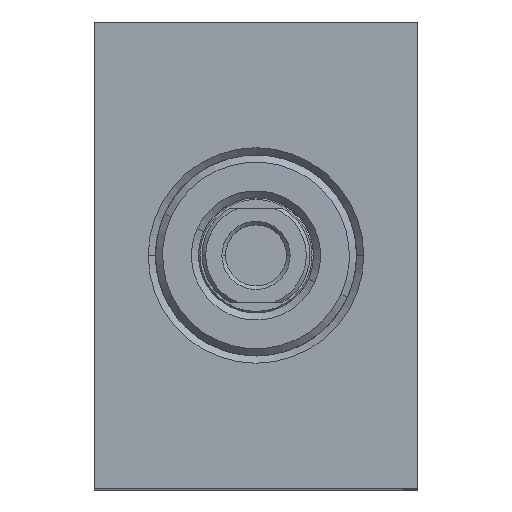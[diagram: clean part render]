
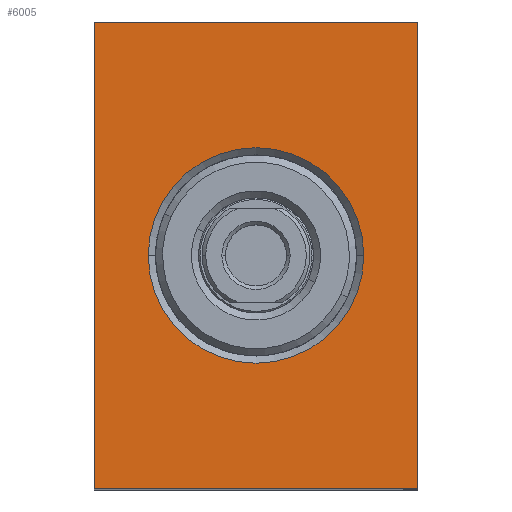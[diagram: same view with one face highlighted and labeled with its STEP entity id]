
A CAD part, top view. The second image highlights one B-rep face of the part: STEP entity #6005.
In plain terms, the highlighted planar face has unit normal (0, 0, 1).
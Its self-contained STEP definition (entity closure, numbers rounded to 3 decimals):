
#109 = ORIENTED_EDGE ( 'NONE', *, *, #9344, .T. ) ;
#167 = VERTEX_POINT ( 'NONE', #6293 ) ;
#646 = CARTESIAN_POINT ( 'NONE',  ( 7.5, 32.5, 89. ) ) ;
#1325 = VECTOR ( 'NONE', #3148, 1000. ) ;
#1464 = EDGE_LOOP ( 'NONE', ( #5530, #10271 ) ) ;
#1695 = VERTEX_POINT ( 'NONE', #8191 ) ;
#1790 = EDGE_CURVE ( 'NONE', #8551, #8921, #6092, .T. ) ;
#2036 = DIRECTION ( 'NONE',  ( -1., 0., 0. ) ) ;
#2461 = FACE_OUTER_BOUND ( 'NONE', #3934, .T. ) ;
#2509 = VERTEX_POINT ( 'NONE', #5059 ) ;
#2634 = AXIS2_PLACEMENT_3D ( 'NONE', #2868, #6065, #3602 ) ;
#2868 = CARTESIAN_POINT ( 'NONE',  ( 0., 0., 89. ) ) ;
#2940 = CIRCLE ( 'NONE', #5442, 15. ) ;
#2944 = VECTOR ( 'NONE', #6049, 1000. ) ;
#3148 = DIRECTION ( 'NONE',  ( 0., -1., 0. ) ) ;
#3270 = LINE ( 'NONE', #8883, #5148 ) ;
#3434 = DIRECTION ( 'NONE',  ( 0., 1., 0. ) ) ;
#3602 = DIRECTION ( 'NONE',  ( -1., 0., 0. ) ) ;
#3624 = CARTESIAN_POINT ( 'NONE',  ( 22.5, 32.5, 89. ) ) ;
#3690 = CARTESIAN_POINT ( 'NONE',  ( 0., 65., 89. ) ) ;
#3934 = EDGE_LOOP ( 'NONE', ( #10112, #6743, #109, #8000 ) ) ;
#4695 = CARTESIAN_POINT ( 'NONE',  ( 0., 65., 89. ) ) ;
#4787 = LINE ( 'NONE', #9282, #7262 ) ;
#5011 = DIRECTION ( 'NONE',  ( -1., 0., 0. ) ) ;
#5059 = CARTESIAN_POINT ( 'NONE',  ( 45., 65., 89. ) ) ;
#5148 = VECTOR ( 'NONE', #3434, 1000. ) ;
#5325 = DIRECTION ( 'NONE',  ( 1., 0., 0. ) ) ;
#5442 = AXIS2_PLACEMENT_3D ( 'NONE', #5906, #7369, #5011 ) ;
#5445 = EDGE_CURVE ( 'NONE', #2509, #7120, #7299, .T. ) ;
#5530 = ORIENTED_EDGE ( 'NONE', *, *, #1790, .T. ) ;
#5682 = EDGE_CURVE ( 'NONE', #8921, #8551, #2940, .T. ) ;
#5906 = CARTESIAN_POINT ( 'NONE',  ( 22.5, 32.5, 89. ) ) ;
#6005 = ADVANCED_FACE ( 'NONE', ( #7293, #2461 ), #8506, .F. ) ;
#6049 = DIRECTION ( 'NONE',  ( -1., 0., 0. ) ) ;
#6065 = DIRECTION ( 'NONE',  ( 0., 0., -1. ) ) ;
#6092 = CIRCLE ( 'NONE', #8135, 15. ) ;
#6280 = CARTESIAN_POINT ( 'NONE',  ( 0., 0., 89. ) ) ;
#6293 = CARTESIAN_POINT ( 'NONE',  ( 0., 0., 89. ) ) ;
#6743 = ORIENTED_EDGE ( 'NONE', *, *, #9110, .T. ) ;
#7120 = VERTEX_POINT ( 'NONE', #4695 ) ;
#7131 = EDGE_CURVE ( 'NONE', #7120, #167, #7270, .T. ) ;
#7262 = VECTOR ( 'NONE', #5325, 1000. ) ;
#7270 = LINE ( 'NONE', #6280, #1325 ) ;
#7293 = FACE_BOUND ( 'NONE', #1464, .T. ) ;
#7299 = LINE ( 'NONE', #3690, #2944 ) ;
#7369 = DIRECTION ( 'NONE',  ( 0., 0., -1. ) ) ;
#8000 = ORIENTED_EDGE ( 'NONE', *, *, #5445, .T. ) ;
#8135 = AXIS2_PLACEMENT_3D ( 'NONE', #3624, #8429, #2036 ) ;
#8191 = CARTESIAN_POINT ( 'NONE',  ( 45., 0., 89. ) ) ;
#8429 = DIRECTION ( 'NONE',  ( 0., 0., -1. ) ) ;
#8506 = PLANE ( 'NONE',  #2634 ) ;
#8551 = VERTEX_POINT ( 'NONE', #9771 ) ;
#8883 = CARTESIAN_POINT ( 'NONE',  ( 45., 0., 89. ) ) ;
#8921 = VERTEX_POINT ( 'NONE', #646 ) ;
#9110 = EDGE_CURVE ( 'NONE', #167, #1695, #4787, .T. ) ;
#9282 = CARTESIAN_POINT ( 'NONE',  ( 0., 0., 89. ) ) ;
#9344 = EDGE_CURVE ( 'NONE', #1695, #2509, #3270, .T. ) ;
#9771 = CARTESIAN_POINT ( 'NONE',  ( 37.5, 32.5, 89. ) ) ;
#10112 = ORIENTED_EDGE ( 'NONE', *, *, #7131, .T. ) ;
#10271 = ORIENTED_EDGE ( 'NONE', *, *, #5682, .T. ) ;
